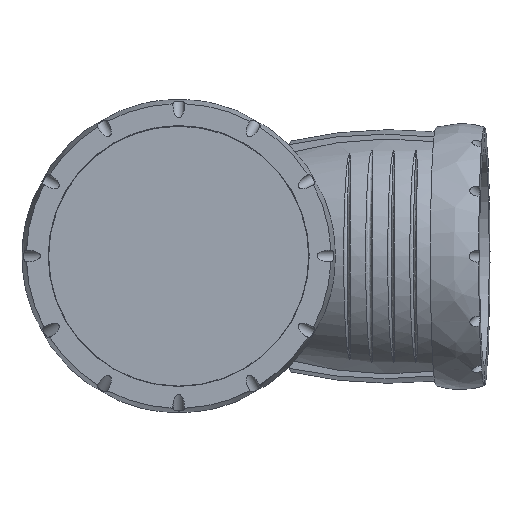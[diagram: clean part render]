
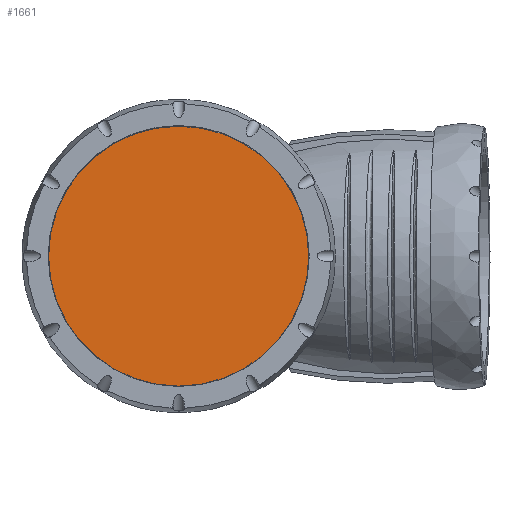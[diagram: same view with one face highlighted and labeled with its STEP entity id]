
A CAD part, top view. The second image highlights one B-rep face of the part: STEP entity #1661.
In plain terms, the highlighted planar face has unit normal (0, 0, 1).
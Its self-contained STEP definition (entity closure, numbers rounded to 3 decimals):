
#225=PLANE('',#1795);
#303=FACE_OUTER_BOUND('',#413,.T.);
#413=EDGE_LOOP('',(#1069));
#551=CIRCLE('',#1796,45.45);
#630=VERTEX_POINT('',#2437);
#810=EDGE_CURVE('',#630,#630,#551,.T.);
#1069=ORIENTED_EDGE('',*,*,#810,.T.);
#1661=ADVANCED_FACE('',(#303),#225,.T.);
#1795=AXIS2_PLACEMENT_3D('',#2436,#1998,#1999);
#1796=AXIS2_PLACEMENT_3D('',#2438,#2000,#2001);
#1998=DIRECTION('center_axis',(0.,0.,
1.));
#1999=DIRECTION('ref_axis',(0.,1.,0.));
#2000=DIRECTION('center_axis',(0.,0.,
1.));
#2001=DIRECTION('ref_axis',(0.,1.,0.));
#2436=CARTESIAN_POINT('Origin',(0.,0.,
148.9));
#2437=CARTESIAN_POINT('',(-45.45,0.,148.9));
#2438=CARTESIAN_POINT('Origin',(0.,0.,
148.9));
